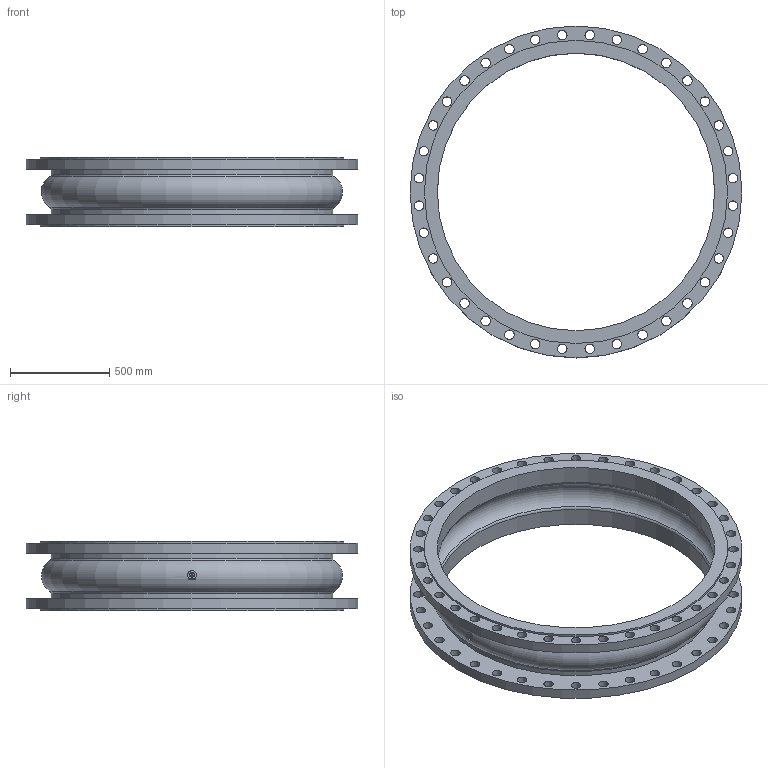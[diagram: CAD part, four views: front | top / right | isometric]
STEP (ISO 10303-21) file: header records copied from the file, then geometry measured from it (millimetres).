
FILE_DESCRIPTION(('STEP AP203'), '1');
FILE_NAME('Êîìïåíñàòîð KMS DN1400 PN10', '', ('UNSPECIFIED'), ('UNSPECIFIED'), 'ASCON STEP Converter 1.6', 'ASCON Math Kernel', '');
FILE_SCHEMA(('CONFIG_CONTROL_DESIGN'));
Length unit declared in the file: millimetre
Bounding box: 1675 x 1675 x 350 mm (x, y, z)
Volume: 79332802.5 mm3; surface area: 6452474.2 mm2
Topology: 1 solids, 1 shells, 109 faces, 292 edges, 192 vertices
Faces by surface type: cylinder 87, plane 13, torus 9
Full cylindrical faces by diameter (mm): 48 x72, 1400 x2, 1420 x2, 1530 x2, 1675 x2
Entity records: 5475 total; most frequent: CARTESIAN_POINT 1766, DIRECTION 574, ORIENTED_EDGE 412, EDGE_LOOP 348, AXIS2_PLACEMENT_3D 280, EDGE_CURVE 206, VERTEX_POINT 192, FACE_BOUND 176
